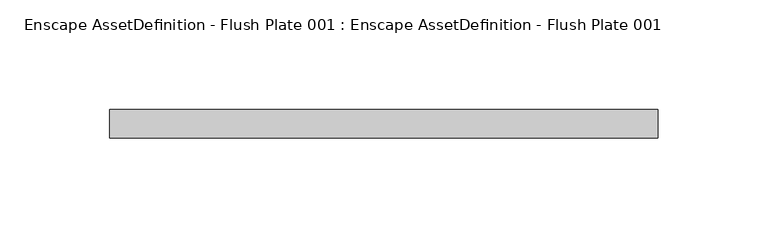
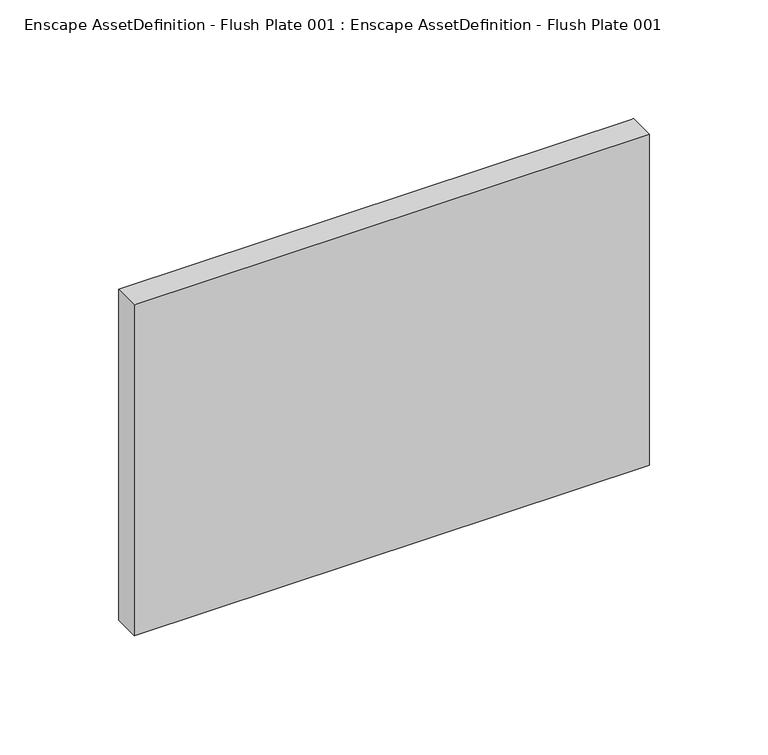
"""IFC4 building model written with IfcOpenShell, lengths in millimetres: geographic element geometry, Enscape AssetDefinition - Flush Plate 001 : Enscape AssetDefinition - Flush Plate 001."""

import ifcopenshell
import ifcopenshell.guid

model = None  # the IFC model being written
_history = None  # IfcOwnerHistory: only IFC2X3 demands one
_inside = {}  # id of a spatial element -> (the spatial element, [elements in it])
_under = {}  # id of a project, library or spatial element -> (it, [spatial elements below it])
_declared = {}  # id of a project -> (the project, [libraries it declares])
_typed = {}  # id of a type object -> (the type object, [elements of that type])
_made_of = {}  # id of a material, layer set ... -> (it, [elements and type objects made of it])


def new_model(schema):
    """Start an empty IFC model of exactly this schema.

    Asked for "IFC4X3", IfcOpenShell would pick the latest addendum, in which some entities
    have other attributes; the version numbers below select the first issue.
    IFC2X3 requires an IfcOwnerHistory on every rooted entity: one is made here for all.
    """
    global model, _history
    if schema == "IFC4X3":
        model = ifcopenshell.file(schema_version=(4, 3, 0, 0))
    else:
        model = ifcopenshell.file(schema=schema)
    _inside.clear()
    _under.clear()
    _declared.clear()
    _typed.clear()
    _made_of.clear()
    _history = None
    if model.schema == "IFC2X3":
        org = make("IfcOrganization", Name="unknown")
        user = make(
            "IfcPersonAndOrganization",
            ThePerson=make("IfcPerson", FamilyName="unknown"),
            TheOrganization=org,
        )
        app = make(
            "IfcApplication",
            ApplicationDeveloper=org,
            Version="unknown",
            ApplicationFullName="unknown",
            ApplicationIdentifier="unknown",
        )
        _history = make(
            "IfcOwnerHistory",
            OwningUser=user,
            OwningApplication=app,
            ChangeAction="ADDED",
            CreationDate=0,
        )
    return model


def make(cls, **values):
    """One entity of the class cls with the attributes given. An attribute that is None is left unset."""
    return model.create_entity(
        cls, **{name: value for name, value in values.items() if value is not None}
    )


def rooted(cls, **values):
    """An entity with a GlobalId (a new one), such as an element, a storey or a relation."""
    return make(cls, GlobalId=ifcopenshell.guid.new(), OwnerHistory=_history, **values)


def si_unit(unit_type, name, prefix=None):
    """IfcSIUnit, for example si_unit("LENGTHUNIT", "METRE", prefix="MILLI")."""
    return make("IfcSIUnit", UnitType=unit_type, Prefix=prefix, Name=name)


def assignment(units):
    """IfcUnitAssignment: the units of a project."""
    return None if units is None else make("IfcUnitAssignment", Units=units)


def point(xyz):
    """IfcCartesianPoint."""
    return None if xyz is None else make("IfcCartesianPoint", Coordinates=xyz)


def direction(xyz):
    """IfcDirection."""
    return None if xyz is None else make("IfcDirection", DirectionRatios=xyz)


def frame(location, z_axis=None, x_axis=None):
    """IfcAxis2Placement3D, a coordinate frame: its origin and axes. An axis left out is left unset."""
    return make(
        "IfcAxis2Placement3D",
        Location=point(location),
        Axis=direction(z_axis),
        RefDirection=direction(x_axis),
    )


def origin():
    """The frame at (0, 0, 0) with its axes left unset."""
    return frame((0.0, 0.0, 0.0))


def place(relative_to, where):
    """IfcLocalPlacement: puts the frame where relative to a parent placement (None: the world)."""
    return make(
        "IfcLocalPlacement", PlacementRelTo=relative_to, RelativePlacement=where
    )


def context(
    kind, dimensions, precision=None, world=None, true_north=None, identifier=None
):
    """IfcGeometricRepresentationContext, for example the 3D "Model" context."""
    return make(
        "IfcGeometricRepresentationContext",
        ContextIdentifier=identifier,
        ContextType=kind,
        CoordinateSpaceDimension=dimensions,
        Precision=precision,
        WorldCoordinateSystem=world,
        TrueNorth=true_north,
    )


def project(units=None, contexts=None):
    """IfcProject with its units and contexts."""
    return rooted(
        "IfcProject",
        Name="project",
        RepresentationContexts=contexts,
        UnitsInContext=assignment(units),
    )


def spatial(cls, under=None, at=None, **own):
    """A site, building, storey or space (cls), placed at a placement, below another one or the project."""
    s = rooted(cls, ObjectPlacement=at, **own)
    if under is not None:
        _under.setdefault(under.id(), (under, []))[1].append(s)
    return s


def point_list(points):
    """IfcCartesianPointList2D or 3D."""
    cls = (
        "IfcCartesianPointList2D" if len(points[0]) == 2 else "IfcCartesianPointList3D"
    )
    return make(cls, CoordList=points)


def triangles(points, corners, closed=None, point_numbers=None):
    """IfcTriangulatedFaceSet: each triangle names its three corners, points numbered from 1."""
    return make(
        "IfcTriangulatedFaceSet",
        Coordinates=point_list(points),
        Closed=closed,
        CoordIndex=corners,
        PnIndex=point_numbers,
    )


def shape(context_of_items, identifier, shape_type, items):
    """IfcShapeRepresentation: the items that make up one representation, for example the "Body"."""
    return make(
        "IfcShapeRepresentation",
        ContextOfItems=context_of_items,
        RepresentationIdentifier=identifier,
        RepresentationType=shape_type,
        Items=items,
    )


def source(mapping_origin, context_of_items, identifier, shape_type, items):
    """IfcRepresentationMap: a shape defined once, which mapped items show again and again."""
    return make(
        "IfcRepresentationMap",
        MappingOrigin=mapping_origin,
        MappedRepresentation=shape(context_of_items, identifier, shape_type, items),
    )


def transform(
    local_origin,
    x_axis=None,
    y_axis=None,
    z_axis=None,
    scale=None,
    scale2=None,
    scale3=None,
    uniform=True,
):
    """IfcCartesianTransformationOperator3D, or its non-uniform kind. x_axis, y_axis, z_axis: its Axis1, 2, 3."""
    if uniform:
        return make(
            "IfcCartesianTransformationOperator3D",
            Axis1=direction(x_axis),
            Axis2=direction(y_axis),
            LocalOrigin=point(local_origin),
            Scale=scale,
            Axis3=direction(z_axis),
        )
    return make(
        "IfcCartesianTransformationOperator3DnonUniform",
        Axis1=direction(x_axis),
        Axis2=direction(y_axis),
        LocalOrigin=point(local_origin),
        Scale=scale,
        Axis3=direction(z_axis),
        Scale2=scale2,
        Scale3=scale3,
    )


def mapped(mapping_source, mapping_target):
    """IfcMappedItem: shows the shape of a source again, moved by a transform."""
    return make(
        "IfcMappedItem", MappingSource=mapping_source, MappingTarget=mapping_target
    )


def made_of(thing, what):
    """Note that an element or type object is made of a material, layer set ...; save() writes the relation."""
    if what is not None:
        _made_of.setdefault(what.id(), (what, []))[1].append(thing)
    return thing


def element(
    cls,
    number,
    at=None,
    inside=None,
    cuts=None,
    type_object=None,
    material=None,
    context=None,
    identifier="Body",
    shape_type=None,
    held_by="IfcProductDefinitionShape",
    body=None,
    shapes=None,
    **own,
):
    """One element of the class cls, such as IfcWall. Its Tag is "e" and its number.

    at: its placement. inside: the storey or other place that contains it. cuts: it is an
    opening in that element (IfcRelVoidsElement). A single representation is given by context,
    identifier, shape_type and body (its items); several are given by shapes. held_by: the class
    of the entity that holds the representations. save() writes the other relations.
    """
    e = rooted(cls, Tag="e%d" % number, ObjectPlacement=at, **own)
    if body is not None:
        shapes = [shape(context, identifier, shape_type, body)]
    if shapes is not None:
        e.Representation = make(held_by, Representations=shapes)
    if inside is not None:
        _inside.setdefault(inside.id(), (inside, []))[1].append(e)
    if cuts is not None:
        rooted(
            "IfcRelVoidsElement", RelatingBuildingElement=cuts, RelatedOpeningElement=e
        )
    if type_object is not None:
        _typed.setdefault(type_object.id(), (type_object, []))[1].append(e)
    return made_of(e, material)


def aggregate(whole, parts):
    """IfcRelAggregates: a whole, such as a stair, and the parts it consists of."""
    return rooted("IfcRelAggregates", RelatingObject=whole, RelatedObjects=parts)


def save(model, path):
    """Write the relations noted so far, then the file.

    IfcRelAggregates (storeys below a building ...), IfcRelContainedInSpatialStructure (elements
    in a storey), IfcRelDefinesByType, IfcRelAssociatesMaterial and IfcRelDeclares: one each for
    every whole, place, type object, material and project.
    """
    for whole, parts in _under.values():
        aggregate(whole, parts)
    for where, things in _inside.values():
        rooted(
            "IfcRelContainedInSpatialStructure",
            RelatedElements=things,
            RelatingStructure=where,
        )
    for kind, things in _typed.values():
        rooted("IfcRelDefinesByType", RelatedObjects=things, RelatingType=kind)
    for what, things in _made_of.values():
        rooted("IfcRelAssociatesMaterial", RelatedObjects=things, RelatingMaterial=what)
    for by, libraries in _declared.values():
        rooted("IfcRelDeclares", RelatingContext=by, RelatedDefinitions=libraries)
    model.write(path)


def enscape_assetdefinition_flush_plate_001_enscape_06e231af(model_context):
    return source(origin(), model_context, "Body", "Tessellation", [
        triangles([(125.000001, 0.0, 84.9999988), (125.000001, 0.0, -84.9999988), (-125.000001, 0.0, -84.9999988), (125.000001, -13.0000002, 84.9999988), (-125.000001, -13.0000002, 84.9999988), (125.000001, -13.0000002, -84.9999988), (-125.000001, -13.0000002, -84.9999988), (-125.000001, 0.0, 84.9999988)], [[7, 5, 8], [8, 3, 7], [5, 4, 1], [1, 8, 5], [4, 6, 2], [2, 1, 4], [6, 7, 3], [3, 2, 6], [4, 5, 7], [7, 6, 4], [1, 2, 3], [3, 8, 1]]),
    ])


if __name__ == "__main__":
    model = new_model("IFC4")
    model_context = context("Model", 3, world=origin())
    ifc_project = project(units=[si_unit("LENGTHUNIT", "METRE", prefix="MILLI")], contexts=[model_context])
    site = spatial("IfcSite", under=ifc_project)
    building = spatial("IfcBuilding", under=site)
    placement = place(None, origin())
    enscape_assetdefinition_flush_plate_001_enscape_shape = enscape_assetdefinition_flush_plate_001_enscape_06e231af(model_context)
    element("IfcGeographicElement", 1, ObjectType="Enscape AssetDefinition - Flush Plate 001 : Enscape AssetDefinition - Flush Plate 001", at=placement, inside=building, context=model_context, shape_type="MappedRepresentation", body=[
        mapped(enscape_assetdefinition_flush_plate_001_enscape_shape, transform((0.0, 0.0, 0.0), x_axis=(1.0, 0.0, 0.0), y_axis=(0.0, 1.0, 0.0), z_axis=(0.0, 0.0, 1.0))),
    ])
    save(model, "model.ifc")
